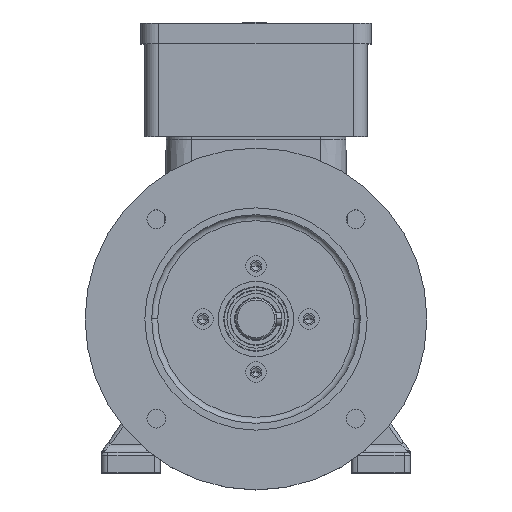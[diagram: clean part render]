
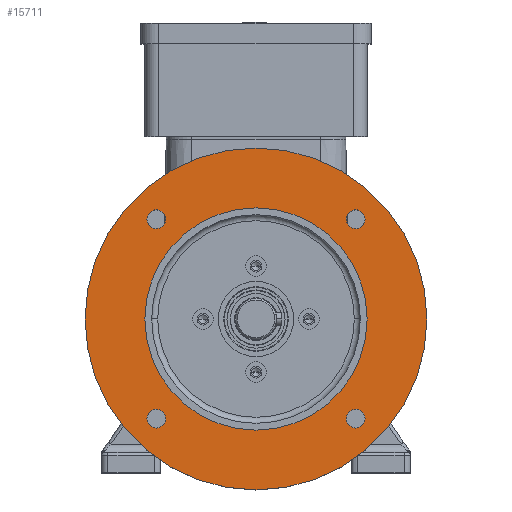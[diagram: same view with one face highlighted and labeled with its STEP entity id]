
A CAD part, top view. The second image highlights one B-rep face of the part: STEP entity #15711.
In plain terms, the highlighted planar face has unit normal (0, 0, 1).
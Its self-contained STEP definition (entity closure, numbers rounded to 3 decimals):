
#440 = CIRCLE ( 'NONE', #81704, 5.5 ) ;
#673 = CARTESIAN_POINT ( 'NONE',  ( -100., 0., 136.5 ) ) ;
#2134 = FACE_BOUND ( 'NONE', #50759, .T. ) ;
#2943 = CARTESIAN_POINT ( 'NONE',  ( -63.836, -58.336, 136.5 ) ) ;
#3368 = FACE_OUTER_BOUND ( 'NONE', #78594, .T. ) ;
#4013 = ORIENTED_EDGE ( 'NONE', *, *, #103125, .F. ) ;
#4859 = CARTESIAN_POINT ( 'NONE',  ( 52.836, -58.336, 136.5 ) ) ;
#7111 = ORIENTED_EDGE ( 'NONE', *, *, #38213, .T. ) ;
#7203 = FACE_BOUND ( 'NONE', #24791, .T. ) ;
#7545 = PLANE ( 'NONE',  #46097 ) ;
#8362 = DIRECTION ( 'NONE',  ( 1., 0., 0. ) ) ;
#9261 = ORIENTED_EDGE ( 'NONE', *, *, #38224, .F. ) ;
#10405 = ORIENTED_EDGE ( 'NONE', *, *, #24784, .F. ) ;
#10700 = CARTESIAN_POINT ( 'NONE',  ( -58.336, 58.336, 136.5 ) ) ;
#11072 = AXIS2_PLACEMENT_3D ( 'NONE', #23511, #95981, #40286 ) ;
#11291 = CARTESIAN_POINT ( 'NONE',  ( -52.836, 58.336, 136.5 ) ) ;
#12551 = CARTESIAN_POINT ( 'NONE',  ( 52.836, 58.336, 136.5 ) ) ;
#13940 = CARTESIAN_POINT ( 'NONE',  ( 0., 0., 136.5 ) ) ;
#13945 = VERTEX_POINT ( 'NONE', #673 ) ;
#14627 = DIRECTION ( 'NONE',  ( 1., 0., 0. ) ) ;
#15711 = ADVANCED_FACE ( 'NONE', ( #100321, #87413, #32655, #2134, #7203, #3368 ), #7545, .F. ) ;
#15893 = VERTEX_POINT ( 'NONE', #85810 ) ;
#16158 = CARTESIAN_POINT ( 'NONE',  ( -58.336, 58.336, 136.5 ) ) ;
#18268 = ORIENTED_EDGE ( 'NONE', *, *, #66789, .T. ) ;
#18639 = EDGE_LOOP ( 'NONE', ( #9261, #19898 ) ) ;
#18649 = CIRCLE ( 'NONE', #47607, 5.5 ) ;
#18708 = ORIENTED_EDGE ( 'NONE', *, *, #30575, .F. ) ;
#19229 = CIRCLE ( 'NONE', #67516, 5.5 ) ;
#19898 = ORIENTED_EDGE ( 'NONE', *, *, #40974, .F. ) ;
#19923 = VERTEX_POINT ( 'NONE', #65549 ) ;
#20442 = CIRCLE ( 'NONE', #78138, 5.5 ) ;
#21405 = DIRECTION ( 'NONE',  ( 0., 0., 1. ) ) ;
#21652 = ORIENTED_EDGE ( 'NONE', *, *, #26433, .F. ) ;
#23511 = CARTESIAN_POINT ( 'NONE',  ( 58.336, -58.336, 136.5 ) ) ;
#24327 = DIRECTION ( 'NONE',  ( 1., 0., 0. ) ) ;
#24331 = DIRECTION ( 'NONE',  ( 0., 0., 1. ) ) ;
#24784 = EDGE_CURVE ( 'NONE', #50946, #86840, #440, .T. ) ;
#24791 = EDGE_LOOP ( 'NONE', ( #46071, #77085 ) ) ;
#26433 = EDGE_CURVE ( 'NONE', #15893, #53652, #19229, .T. ) ;
#27962 = CIRCLE ( 'NONE', #11072, 5.5 ) ;
#30575 = EDGE_CURVE ( 'NONE', #53652, #15893, #46885, .T. ) ;
#31404 = DIRECTION ( 'NONE',  ( 0., 0., -1. ) ) ;
#32655 = FACE_BOUND ( 'NONE', #56637, .T. ) ;
#35247 = DIRECTION ( 'NONE',  ( 1., 0., 0. ) ) ;
#37059 = AXIS2_PLACEMENT_3D ( 'NONE', #13940, #21405, #54220 ) ;
#38000 = CARTESIAN_POINT ( 'NONE',  ( -52.836, -58.336, 136.5 ) ) ;
#38213 = EDGE_CURVE ( 'NONE', #19923, #13945, #40691, .T. ) ;
#38224 = EDGE_CURVE ( 'NONE', #101422, #41575, #50934, .T. ) ;
#40286 = DIRECTION ( 'NONE',  ( 1., 0., 0. ) ) ;
#40691 = CIRCLE ( 'NONE', #76015, 100. ) ;
#40974 = EDGE_CURVE ( 'NONE', #41575, #101422, #18649, .T. ) ;
#41575 = VERTEX_POINT ( 'NONE', #2943 ) ;
#44807 = EDGE_CURVE ( 'NONE', #86840, #50946, #27962, .T. ) ;
#45074 = CARTESIAN_POINT ( 'NONE',  ( 0., 0., 136.5 ) ) ;
#45977 = DIRECTION ( 'NONE',  ( 0., 0., 1. ) ) ;
#46071 = ORIENTED_EDGE ( 'NONE', *, *, #88493, .F. ) ;
#46097 = AXIS2_PLACEMENT_3D ( 'NONE', #95992, #31404, #64521 ) ;
#46885 = CIRCLE ( 'NONE', #63790, 5.5 ) ;
#47134 = CARTESIAN_POINT ( 'NONE',  ( -65., 0., 136.5 ) ) ;
#47607 = AXIS2_PLACEMENT_3D ( 'NONE', #98621, #80710, #49734 ) ;
#47829 = DIRECTION ( 'NONE',  ( 1., 0., 0. ) ) ;
#47905 = AXIS2_PLACEMENT_3D ( 'NONE', #89599, #24331, #8362 ) ;
#49734 = DIRECTION ( 'NONE',  ( 1., 0., 0. ) ) ;
#50190 = VERTEX_POINT ( 'NONE', #100103 ) ;
#50759 = EDGE_LOOP ( 'NONE', ( #21652, #18708 ) ) ;
#50934 = CIRCLE ( 'NONE', #104836, 5.5 ) ;
#50946 = VERTEX_POINT ( 'NONE', #4859 ) ;
#51659 = VERTEX_POINT ( 'NONE', #11291 ) ;
#53652 = VERTEX_POINT ( 'NONE', #12551 ) ;
#54220 = DIRECTION ( 'NONE',  ( 1., 0., 0. ) ) ;
#55980 = DIRECTION ( 'NONE',  ( 0., 0., 1. ) ) ;
#56637 = EDGE_LOOP ( 'NONE', ( #4013, #102234 ) ) ;
#57300 = DIRECTION ( 'NONE',  ( 1., 0., 0. ) ) ;
#60037 = VERTEX_POINT ( 'NONE', #47134 ) ;
#60510 = DIRECTION ( 'NONE',  ( 0., 0., 1. ) ) ;
#61681 = DIRECTION ( 'NONE',  ( 1., 0., 0. ) ) ;
#63790 = AXIS2_PLACEMENT_3D ( 'NONE', #89151, #72403, #47829 ) ;
#63810 = CIRCLE ( 'NONE', #37059, 65. ) ;
#64521 = DIRECTION ( 'NONE',  ( -1., 0., 0. ) ) ;
#65549 = CARTESIAN_POINT ( 'NONE',  ( 100., 0., 136.5 ) ) ;
#66789 = EDGE_CURVE ( 'NONE', #13945, #19923, #104885, .T. ) ;
#66988 = ORIENTED_EDGE ( 'NONE', *, *, #44807, .F. ) ;
#67326 = DIRECTION ( 'NONE',  ( 0., 0., 1. ) ) ;
#67516 = AXIS2_PLACEMENT_3D ( 'NONE', #104547, #55980, #14627 ) ;
#67663 = DIRECTION ( 'NONE',  ( 0., 0., 1. ) ) ;
#68023 = CARTESIAN_POINT ( 'NONE',  ( 0., 0., 136.5 ) ) ;
#69424 = DIRECTION ( 'NONE',  ( 1., 0., 0. ) ) ;
#72403 = DIRECTION ( 'NONE',  ( 0., 0., 1. ) ) ;
#73181 = DIRECTION ( 'NONE',  ( 0., 0., 1. ) ) ;
#76015 = AXIS2_PLACEMENT_3D ( 'NONE', #68023, #60510, #91958 ) ;
#77085 = ORIENTED_EDGE ( 'NONE', *, *, #94623, .F. ) ;
#78138 = AXIS2_PLACEMENT_3D ( 'NONE', #10700, #67326, #69424 ) ;
#78594 = EDGE_LOOP ( 'NONE', ( #7111, #18268 ) ) ;
#79007 = EDGE_CURVE ( 'NONE', #79849, #51659, #20442, .T. ) ;
#79849 = VERTEX_POINT ( 'NONE', #102340 ) ;
#80710 = DIRECTION ( 'NONE',  ( 0., 0., 1. ) ) ;
#81704 = AXIS2_PLACEMENT_3D ( 'NONE', #94864, #45977, #61681 ) ;
#84597 = CIRCLE ( 'NONE', #87629, 5.5 ) ;
#85148 = AXIS2_PLACEMENT_3D ( 'NONE', #45074, #105741, #57300 ) ;
#85810 = CARTESIAN_POINT ( 'NONE',  ( 63.836, 58.336, 136.5 ) ) ;
#86840 = VERTEX_POINT ( 'NONE', #101018 ) ;
#87413 = FACE_BOUND ( 'NONE', #18639, .T. ) ;
#87629 = AXIS2_PLACEMENT_3D ( 'NONE', #16158, #73181, #24327 ) ;
#88493 = EDGE_CURVE ( 'NONE', #50190, #60037, #99035, .T. ) ;
#89151 = CARTESIAN_POINT ( 'NONE',  ( 58.336, 58.336, 136.5 ) ) ;
#89599 = CARTESIAN_POINT ( 'NONE',  ( 0., 0., 136.5 ) ) ;
#91416 = EDGE_LOOP ( 'NONE', ( #66988, #10405 ) ) ;
#91958 = DIRECTION ( 'NONE',  ( 1., 0., 0. ) ) ;
#94623 = EDGE_CURVE ( 'NONE', #60037, #50190, #63810, .T. ) ;
#94864 = CARTESIAN_POINT ( 'NONE',  ( 58.336, -58.336, 136.5 ) ) ;
#95981 = DIRECTION ( 'NONE',  ( 0., 0., 1. ) ) ;
#95992 = CARTESIAN_POINT ( 'NONE',  ( 0., 100., 136.5 ) ) ;
#98621 = CARTESIAN_POINT ( 'NONE',  ( -58.336, -58.336, 136.5 ) ) ;
#99035 = CIRCLE ( 'NONE', #85148, 65. ) ;
#100103 = CARTESIAN_POINT ( 'NONE',  ( 65., 0., 136.5 ) ) ;
#100321 = FACE_BOUND ( 'NONE', #91416, .T. ) ;
#101018 = CARTESIAN_POINT ( 'NONE',  ( 63.836, -58.336, 136.5 ) ) ;
#101422 = VERTEX_POINT ( 'NONE', #38000 ) ;
#101571 = CARTESIAN_POINT ( 'NONE',  ( -58.336, -58.336, 136.5 ) ) ;
#102234 = ORIENTED_EDGE ( 'NONE', *, *, #79007, .F. ) ;
#102340 = CARTESIAN_POINT ( 'NONE',  ( -63.836, 58.336, 136.5 ) ) ;
#103125 = EDGE_CURVE ( 'NONE', #51659, #79849, #84597, .T. ) ;
#104547 = CARTESIAN_POINT ( 'NONE',  ( 58.336, 58.336, 136.5 ) ) ;
#104836 = AXIS2_PLACEMENT_3D ( 'NONE', #101571, #67663, #35247 ) ;
#104885 = CIRCLE ( 'NONE', #47905, 100. ) ;
#105741 = DIRECTION ( 'NONE',  ( 0., 0., 1. ) ) ;
